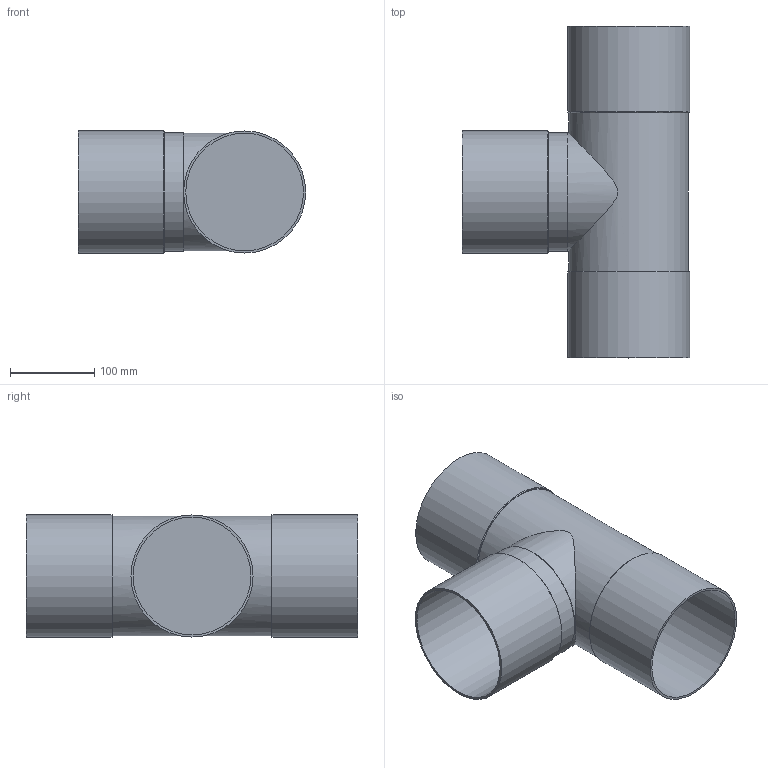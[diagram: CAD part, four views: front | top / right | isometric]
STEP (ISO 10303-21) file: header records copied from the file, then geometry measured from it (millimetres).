
FILE_DESCRIPTION(/* description */ ('Unknown'),/* implementation_level */ '2;1');
FILE_NAME(/* name */ 'F16DN139,7',/* time_stamp */ '2020-11-17T12:52:33+01:00',/* author */ ('Unknown'),/* organization */ ('Unknown'),/* preprocessor_version */ 'ST-DEVELOPER v16.7',/* originating_system */ 'DEX',/* authorisation */ $);
FILE_SCHEMA (('AUTOMOTIVE_DESIGN {1 0 10303 214 3 1 1}'));
Length unit declared in the file: millimetre
Products named in the file (1): F16DN139,7
Bounding box: 270 x 394 x 145 mm (x, y, z)
Volume: 4096333.2 mm3; surface area: 406839.8 mm2
Topology: 1 solids, 1 shells, 22 faces, 39 edges, 27 vertices
Faces by surface type: plane 10, cylinder 9, cone 3
Full cylindrical faces by diameter (mm): 139.7 x4, 141 x1, 142 x1, 145 x3
Entity records: 538 total; most frequent: CARTESIAN_POINT 142, DIRECTION 86, AXIS2_PLACEMENT_3D 43, ORIENTED_EDGE 42, EDGE_LOOP 42, FACE_BOUND 42, ADVANCED_FACE 22, EDGE_CURVE 21
